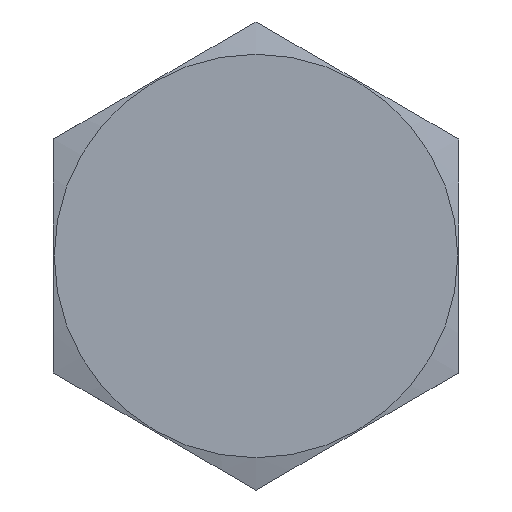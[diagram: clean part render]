
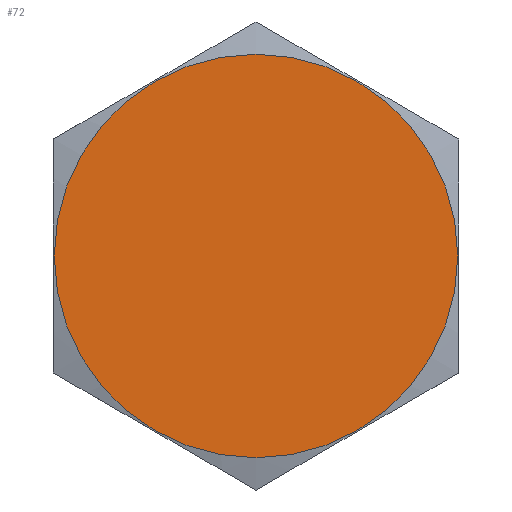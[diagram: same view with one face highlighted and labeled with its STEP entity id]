
A CAD part, left-side view. The second image highlights one B-rep face of the part: STEP entity #72.
In plain terms, the highlighted planar face has unit normal (-1, 0, 0).
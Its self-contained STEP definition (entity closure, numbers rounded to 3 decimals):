
#72 = ADVANCED_FACE( '', ( #155 ), #156, .T. );
#155 = FACE_OUTER_BOUND( '', #242, .T. );
#156 = PLANE( '', #243 );
#242 = EDGE_LOOP( '', ( #361 ) );
#243 = AXIS2_PLACEMENT_3D( '', #362, #363, #364 );
#361 = ORIENTED_EDGE( '', *, *, #466, .T. );
#362 = CARTESIAN_POINT( '', ( -21., -16., -9.238 ) );
#363 = DIRECTION( '', ( -1., 0., 0. ) );
#364 = DIRECTION( '', ( 0., -1., 0. ) );
#466 = EDGE_CURVE( '', #543, #543, #544, .T. );
#543 = VERTEX_POINT( '', #696 );
#544 = CIRCLE( '', #697, 15.925 );
#696 = CARTESIAN_POINT( '', ( -21., 0., 15.925 ) );
#697 = AXIS2_PLACEMENT_3D( '', #790, #791, #792 );
#790 = CARTESIAN_POINT( '', ( -21., 0., 0. ) );
#791 = DIRECTION( '', ( -1., 0., 0. ) );
#792 = DIRECTION( '', ( 0., 0., 1. ) );
